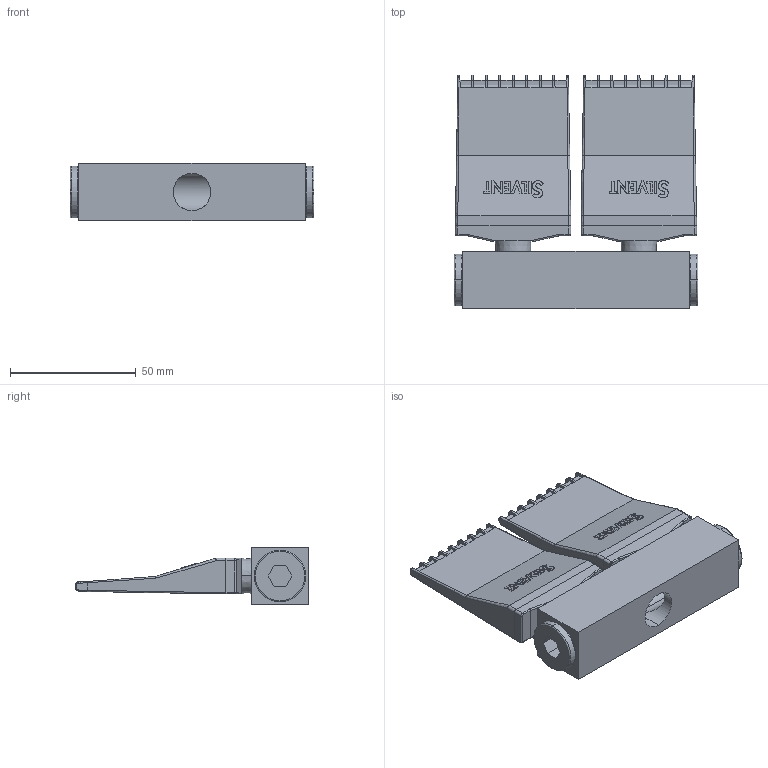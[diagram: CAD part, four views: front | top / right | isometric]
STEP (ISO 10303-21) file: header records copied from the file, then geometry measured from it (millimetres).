
FILE_DESCRIPTION (( 'STEP AP214' ), '1' );
FILE_NAME ('Silvent 392.STEP', '2010-10-04T06:59:48', ( ' ' ), ( '' ), 'SwSTEP 2.0', 'SolidWorks 2010', '' );
FILE_SCHEMA (( 'AUTOMOTIVE_DESIGN' ));
Length unit declared in the file: millimetre
Products named in the file (4): Silvent 392; Profil 302; Plugg 300; Silvent 920A
Assembly tree (5 placements, depth 2):
  Silvent 392
    Silvent 920A  x2
    Plugg 300  x2
    Profil 302
Bounding box: 97 x 93 x 23 mm (x, y, z)
Volume: 85555.6 mm3; surface area: 33303.1 mm2
Topology: 5 solids, 5 shells, 662 faces, 1754 edges, 1120 vertices
Faces by surface type: plane 342, cylinder 252, bspline 44, cone 12, torus 8, sphere 4
Entity records: 12711 total; most frequent: CARTESIAN_POINT 4228, ORIENTED_EDGE 1792, DIRECTION 1654, EDGE_CURVE 896, VERTEX_POINT 574, VECTOR 556, LINE 556, AXIS2_PLACEMENT_3D 549
